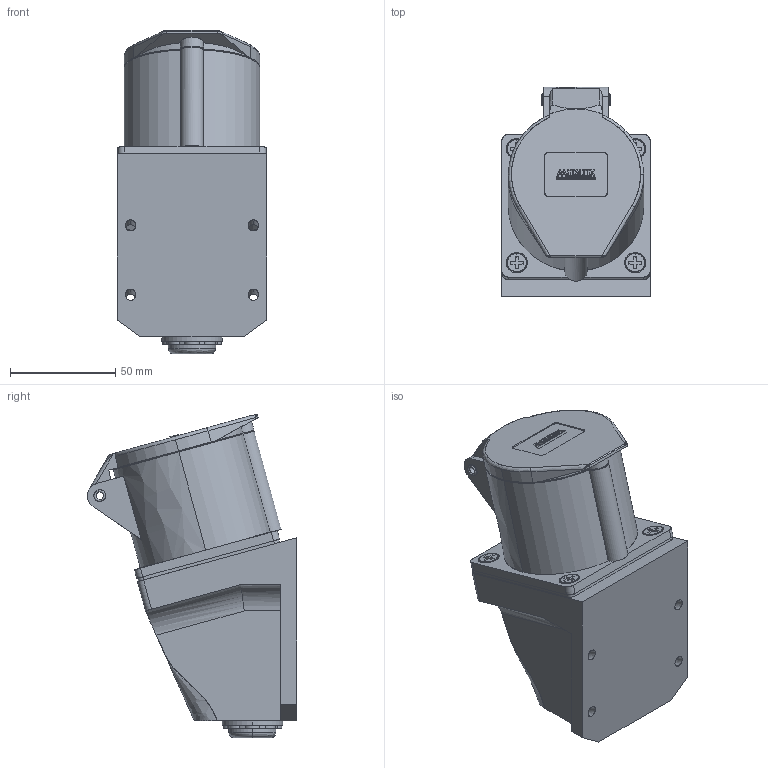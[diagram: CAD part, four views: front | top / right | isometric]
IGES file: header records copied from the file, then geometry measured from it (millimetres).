
Start section: SolidWorks IGES file using analytic representation for surfaces
Global section: file name: D:\X - Arquivos\PROEX\Empresas\P11 - METALTEX\01 - Produtos\IGES\4ª remessa\3ª etapa\TLS32432.IGS; native system: SolidWorks 2012; preprocessor: SolidWorks 2012; author: Usuario; date: 180418.161636; units: millimetre
Bounding box: 71 x 99.66 x 153.99 mm (x, y, z)
Surface area: 64842.5 mm2 (no closed solid volume)
Topology: 0 solids, 0 shells, 529 faces, 7320 edges, 7317 vertices
Faces by surface type: bspline 333, revolution 196
